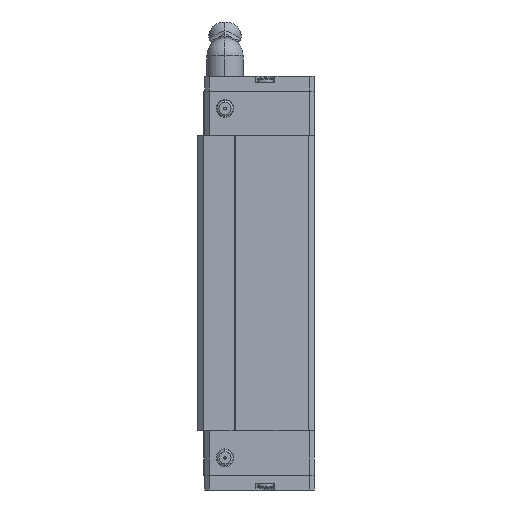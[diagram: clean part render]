
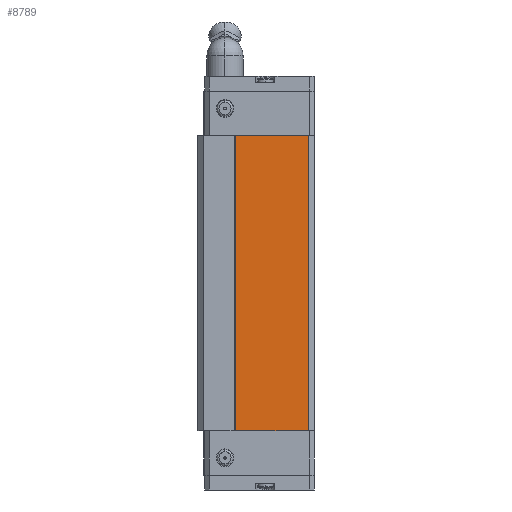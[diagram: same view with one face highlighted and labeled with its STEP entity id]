
A CAD part, left-side view. The second image highlights one B-rep face of the part: STEP entity #8789.
In plain terms, the highlighted planar face has unit normal (-1, 0, 0).
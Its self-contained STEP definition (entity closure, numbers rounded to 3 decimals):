
#157 = PLANE ( 'NONE',  #6905 ) ;
#192 = CARTESIAN_POINT ( 'NONE',  ( -21.66, 17.36, -32.6 ) ) ;
#1380 = DIRECTION ( 'NONE',  ( 0., 0., -1. ) ) ;
#1522 = VECTOR ( 'NONE', #5891, 1000. ) ;
#1613 = LINE ( 'NONE', #6963, #12957 ) ;
#2415 = VERTEX_POINT ( 'NONE', #8915 ) ;
#2665 = LINE ( 'NONE', #5770, #14007 ) ;
#3248 = ORIENTED_EDGE ( 'NONE', *, *, #7842, .T. ) ;
#3406 = VECTOR ( 'NONE', #6880, 1000. ) ;
#3488 = DIRECTION ( 'NONE',  ( 1., 0., 0. ) ) ;
#3684 = CARTESIAN_POINT ( 'NONE',  ( -21.66, 17.36, -32.6 ) ) ;
#3710 = DIRECTION ( 'NONE',  ( 0., 0., -1. ) ) ;
#4158 = CARTESIAN_POINT ( 'NONE',  ( -21.66, 1.285, -32.6 ) ) ;
#5770 = CARTESIAN_POINT ( 'NONE',  ( -21.66, 17.36, 32.6 ) ) ;
#5891 = DIRECTION ( 'NONE',  ( 0., -1., 0. ) ) ;
#6041 = ORIENTED_EDGE ( 'NONE', *, *, #7909, .F. ) ;
#6339 = LINE ( 'NONE', #12335, #3406 ) ;
#6569 = CARTESIAN_POINT ( 'NONE',  ( -21.66, 1.285, 32.6 ) ) ;
#6880 = DIRECTION ( 'NONE',  ( 0., -1., 0. ) ) ;
#6905 = AXIS2_PLACEMENT_3D ( 'NONE', #8963, #3488, #11158 ) ;
#6963 = CARTESIAN_POINT ( 'NONE',  ( -21.66, 1.285, 32.6 ) ) ;
#6977 = ORIENTED_EDGE ( 'NONE', *, *, #11765, .F. ) ;
#7417 = VERTEX_POINT ( 'NONE', #6569 ) ;
#7709 = EDGE_LOOP ( 'NONE', ( #3248, #12741, #6041, #6977 ) ) ;
#7796 = VERTEX_POINT ( 'NONE', #192 ) ;
#7842 = EDGE_CURVE ( 'NONE', #2415, #7796, #2665, .T. ) ;
#7909 = EDGE_CURVE ( 'NONE', #7417, #11265, #1613, .T. ) ;
#8789 = ADVANCED_FACE ( 'NONE', ( #13628 ), #157, .F. ) ;
#8915 = CARTESIAN_POINT ( 'NONE',  ( -21.66, 17.36, 32.6 ) ) ;
#8963 = CARTESIAN_POINT ( 'NONE',  ( -21.66, 17.36, 32.6 ) ) ;
#10297 = LINE ( 'NONE', #3684, #1522 ) ;
#11057 = EDGE_CURVE ( 'NONE', #7796, #11265, #10297, .T. ) ;
#11158 = DIRECTION ( 'NONE',  ( 0., 1., 0. ) ) ;
#11265 = VERTEX_POINT ( 'NONE', #4158 ) ;
#11765 = EDGE_CURVE ( 'NONE', #2415, #7417, #6339, .T. ) ;
#12335 = CARTESIAN_POINT ( 'NONE',  ( -21.66, 17.36, 32.6 ) ) ;
#12741 = ORIENTED_EDGE ( 'NONE', *, *, #11057, .T. ) ;
#12957 = VECTOR ( 'NONE', #3710, 1000. ) ;
#13628 = FACE_OUTER_BOUND ( 'NONE', #7709, .T. ) ;
#14007 = VECTOR ( 'NONE', #1380, 1000. ) ;
